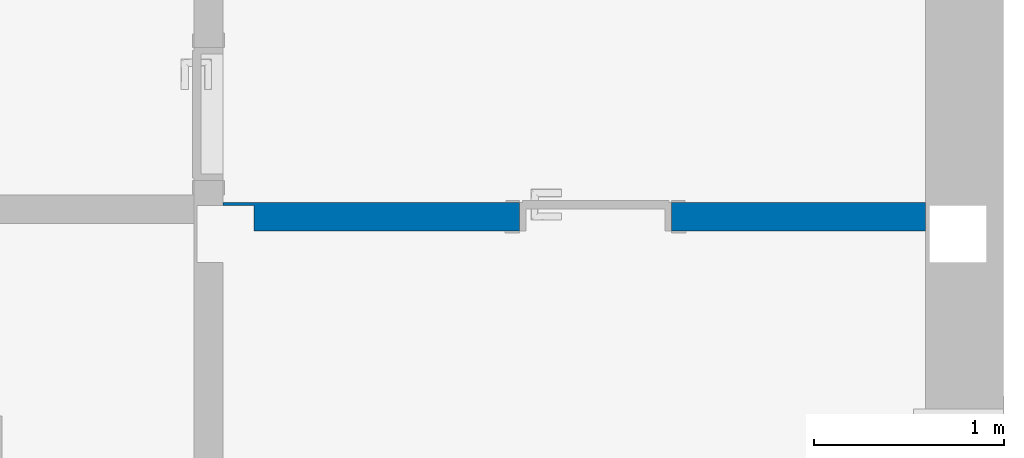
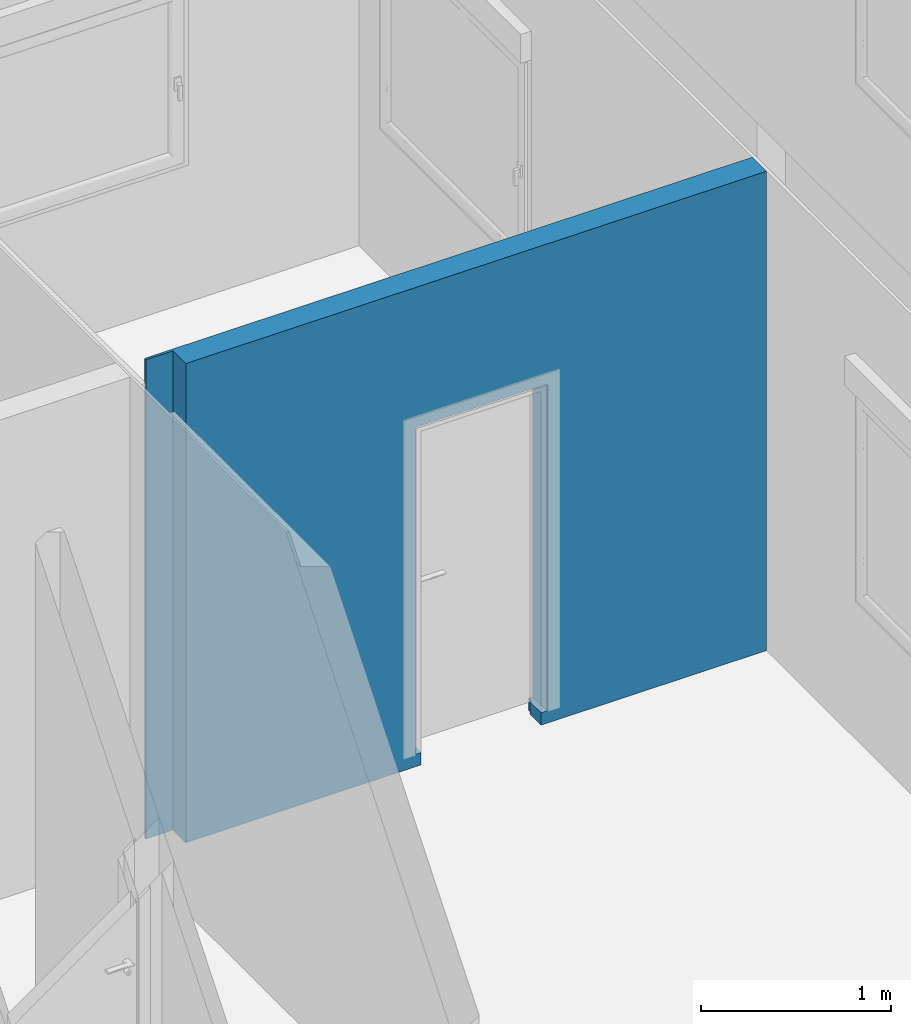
# One storey, part 10 of 11: 1 wall, 1 opening.
"""IFC2X3 building model written with IfcOpenShell, lengths in metres."""

from ifc_helpers import new_model, entity, si_unit, converted_unit, derived_unit, direction, frame, frame_2d, origin, place, context, subcontext, project, spatial, rectangle, extrude, faceted_brep, material, layer, layer_set, type_object, element, save


model = new_model("IFC2X3")

# Units and contexts
model_context = context("Model", 3, precision=1e-05, world=origin(), true_north=direction((6.12303176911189e-17, 1.0)))
context_of_model = context(None, 3, precision=1e-05, world=origin(), true_north=direction((6.12303176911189e-17, 1.0)))
body_context = subcontext(model_context, "Body", "Model", "MODEL_VIEW")
ifc_project = project(units=[si_unit("LENGTHUNIT", "METRE"), si_unit("AREAUNIT", "SQUARE_METRE"), si_unit("VOLUMEUNIT", "CUBIC_METRE"), converted_unit("PLANEANGLEUNIT", "DEGREE", entity("IfcRatioMeasure", 0.0174532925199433), si_unit("PLANEANGLEUNIT", "RADIAN"), dimensions=[0, 0, 0, 0, 0, 0, 0]), si_unit("MASSUNIT", "GRAM", prefix="KILO"), si_unit("TIMEUNIT", "SECOND"), si_unit("FREQUENCYUNIT", "HERTZ"), si_unit("THERMODYNAMICTEMPERATUREUNIT", "DEGREE_CELSIUS"), derived_unit("THERMALTRANSMITTANCEUNIT", [(si_unit("MASSUNIT", "GRAM", prefix="KILO"), 1), (si_unit("THERMODYNAMICTEMPERATUREUNIT", "KELVIN"), -1), (si_unit("TIMEUNIT", "SECOND"), -3)]), derived_unit("VOLUMETRICFLOWRATEUNIT", [(si_unit("LENGTHUNIT", "METRE"), 3), (si_unit("TIMEUNIT", "SECOND"), -1)]), si_unit("ELECTRICCURRENTUNIT", "AMPERE"), si_unit("ELECTRICVOLTAGEUNIT", "VOLT"), si_unit("POWERUNIT", "WATT"), si_unit("FORCEUNIT", "NEWTON", prefix="KILO"), si_unit("ILLUMINANCEUNIT", "LUX"), si_unit("LUMINOUSFLUXUNIT", "LUMEN"), si_unit("LUMINOUSINTENSITYUNIT", "CANDELA"), si_unit("PRESSUREUNIT", "PASCAL")], contexts=[model_context, context_of_model])

# Site, building, storey
site_placement = place(None, origin())
site = spatial("IfcSite", under=ifc_project, at=site_placement, Name="Default", CompositionType="ELEMENT")
building_placement = place(site_placement, origin())
building = spatial("IfcBuilding", under=site, at=building_placement, CompositionType="ELEMENT")
storey_placement = place(building_placement, frame((0.0, 0.0, 0.12)))
storey = spatial("IfcBuildingStorey", under=building, at=storey_placement, Name="01.ES.FORJADO PLANTA BAJA", CompositionType="ELEMENT", Elevation=0.12)

# Wall, opening
ifc_material = material(Name="Muro por defecto")
ifc_layer = layer(ifc_material, 0.15)
ifc_layer_set = layer_set([ifc_layer], Name="Muro básico:Por defecto - 15 cm")
wall_type = type_object("IfcWallType", Name="Muro básico:Por defecto - 15 cm", PredefinedType="STANDARD", material=ifc_layer_set)
wall_placement = place(storey_placement, frame((15.245, 8.69, 0.0), z_axis=(0.0, 0.0, 1.0), x_axis=(-1.0, 0.0, 0.0)))
wall = element("IfcWall", 1, at=wall_placement, inside=storey, type_object=wall_type, Name="Muro básico:Por defecto - 15 cm", ObjectType="Muro básico:Por defecto - 15 cm", context=body_context, shape_type="Brep", body=[
    faceted_brep([(3.69499999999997, -0.0749999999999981, 3.08), (0.0, -0.0749999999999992, 3.08), (0.0, -0.0749999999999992, 0.0800000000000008), (0.0, -0.0749999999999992, 0.0), (1.35999999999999, -0.0749999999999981, 0.0), (1.35999999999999, -0.0749999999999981, 0.0800000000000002), (1.33499999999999, -0.0749999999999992, 0.0800000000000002), (1.33499999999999, -0.0749999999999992, 2.17999999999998), (2.13499999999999, -0.0749999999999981, 2.17999999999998), (2.13499999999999, -0.0749999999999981, 0.0800000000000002), (2.10999999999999, -0.0749999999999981, 0.0800000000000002), (2.10999999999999, -0.0749999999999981, 0.0), (3.69499999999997, -0.0749999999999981, 0.0), (3.69499999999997, -0.0749999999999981, 0.0800000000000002), (0.0, 0.0750000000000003, 3.08), (3.53000000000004, 0.0750000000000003, 3.08), (3.53000000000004, 0.0750000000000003, 0.0800000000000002), (3.53000000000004, 0.0750000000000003, 0.0), (2.09999999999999, 0.0750000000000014, 0.0), (2.09999999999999, 0.0750000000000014, 0.0800000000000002), (2.13499999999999, 0.0750000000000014, 0.0800000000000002), (2.13499999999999, 0.0750000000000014, 2.17999999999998), (1.33499999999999, 0.0750000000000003, 2.17999999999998), (1.33499999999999, 0.0750000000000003, 0.0800000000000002), (1.36999999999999, 0.0750000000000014, 0.0800000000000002), (1.36999999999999, 0.0750000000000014, 0.0), (0.0, 0.0750000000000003, 0.0), (0.0, 0.0750000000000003, 0.0800000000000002), (1.36999999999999, -0.0400000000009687, 0.0), (1.35999999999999, -0.0400000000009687, 0.0), (3.69499999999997, -0.0600000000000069, 3.08), (3.53000000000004, -0.060000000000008, 3.08), (3.69499999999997, -0.0600000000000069, 0.0), (3.69499999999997, -0.060000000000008, 2.93), (3.53000000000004, -0.060000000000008, 0.0), (1.35999999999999, -0.0400000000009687, 0.0800000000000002), (1.36999999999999, -0.0400000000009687, 0.0800000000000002), (2.09999999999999, -0.040000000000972, 0.0), (2.09999999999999, -0.040000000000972, 0.0800000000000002), (2.10999999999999, -0.040000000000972, 0.0), (2.10999999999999, -0.040000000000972, 0.0800000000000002)], [[[0, 1, 2, 3, 4, 5, 6, 7, 8, 9, 10, 11, 12, 13]], [[14, 15, 16, 17, 18, 19, 20, 21, 22, 23, 24, 25, 26, 27]], [[3, 26, 25, 28, 29, 4]], [[1, 0, 30, 31, 15, 14]], [[1, 14, 27, 26, 3, 2]], [[12, 32, 33, 30, 0, 13]], [[32, 34, 31, 30, 33]], [[34, 17, 16, 15, 31]], [[7, 6, 23, 22]], [[8, 7, 22, 21]], [[9, 8, 21, 20]], [[23, 6, 5, 35, 36, 24]], [[37, 38, 19, 18]], [[38, 37, 39, 40]], [[40, 39, 11, 10]], [[29, 35, 5, 4]], [[35, 29, 28, 36]], [[36, 28, 25, 24]], [[9, 20, 19, 38, 40, 10]], [[32, 12, 11, 39, 37, 18, 17, 34]]]),
])
opening_placement = place(wall_placement, frame((2.13499999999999, 0.0749999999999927, 0.0799999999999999)))
element("IfcOpeningElement", 2, at=opening_placement, cuts=wall, Name="Puerta de 1 hoja:80 x 210 cm:1", ObjectType="Opening", context=body_context, shape_type="SweptSolid", body=[
    extrude(rectangle(XDim=2.09999999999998, YDim=0.8, at=frame_2d((1.04999999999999, 0.4), x_axis=(1.0, 0.0))), frame((0.0, 0.0, 0.0), z_axis=(0.0, -1.0, 0.0), x_axis=(0.0, 0.0, 1.0)), (0.0, 0.0, 1.0), 0.15),
])

save(model, "model.ifc")
